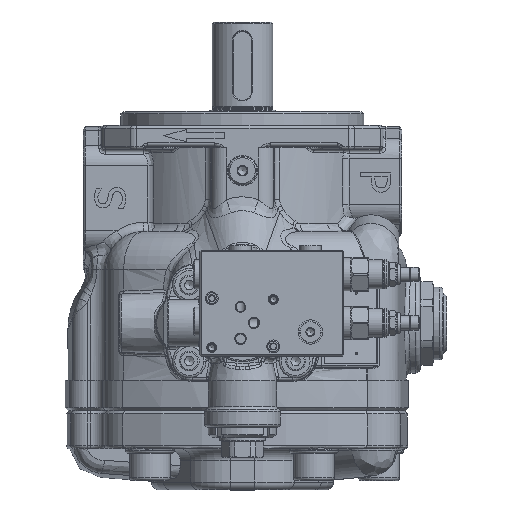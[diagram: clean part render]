
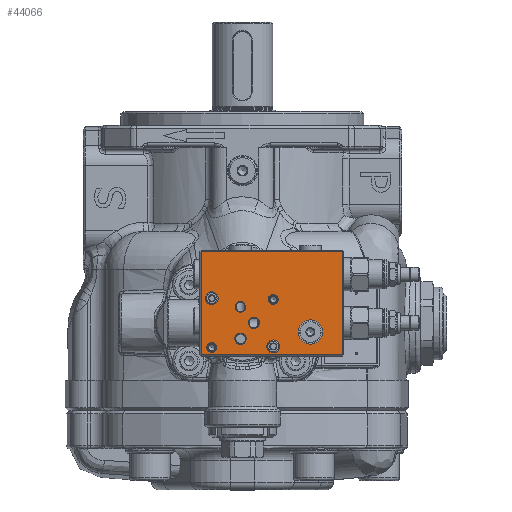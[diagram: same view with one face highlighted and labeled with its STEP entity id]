
A CAD part, top view. The second image highlights one B-rep face of the part: STEP entity #44066.
In plain terms, the highlighted planar face has unit normal (0, 0, 1).
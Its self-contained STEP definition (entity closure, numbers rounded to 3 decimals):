
#1290=FACE_BOUND('',#8272,.T.);
#1291=FACE_BOUND('',#8273,.T.);
#1292=FACE_BOUND('',#8274,.T.);
#1293=FACE_BOUND('',#8275,.T.);
#1294=FACE_BOUND('',#8276,.T.);
#1295=FACE_BOUND('',#8277,.T.);
#1296=FACE_BOUND('',#8278,.T.);
#1297=FACE_BOUND('',#8279,.T.);
#2116=PLANE('',#48177);
#3190=B_SPLINE_CURVE_WITH_KNOTS('',3,(#90989,#90990,#90991,#90992,#90993,
#90994,#90995,#90996,#90997,#90998,#90999,#91000,#91001,#91002,#91003,#91004,
#91005),.UNSPECIFIED.,.T.,.F.,(4,1,1,1,1,1,1,1,1,1,1,1,1,1,4),(-2.154,
-2.077,-2.,-1.923,-1.846,
-1.538,-1.231,-1.128,-0.923,
-0.615,-0.308,-0.231,-0.154,
-0.077,0.),.UNSPECIFIED.);
#5632=FACE_OUTER_BOUND('',#8271,.T.);
#8271=EDGE_LOOP('',(#37166,#37167,#37168,#37169));
#8272=EDGE_LOOP('',(#37170));
#8273=EDGE_LOOP('',(#37171));
#8274=EDGE_LOOP('',(#37172));
#8275=EDGE_LOOP('',(#37173));
#8276=EDGE_LOOP('',(#37174));
#8277=EDGE_LOOP('',(#37175,#37176));
#8278=EDGE_LOOP('',(#37177));
#8279=EDGE_LOOP('',(#37178));
#8646=CIRCLE('',#44410,4.25);
#10534=CIRCLE('',#47790,8.);
#10535=CIRCLE('',#47791,8.);
#10624=CIRCLE('',#48158,3.25);
#10629=CIRCLE('',#48165,3.75);
#10630=CIRCLE('',#48167,3.25);
#10633=CIRCLE('',#48174,3.75);
#10636=CIRCLE('',#48178,4.25);
#13278=LINE('',#90867,#15755);
#13283=LINE('',#90875,#15760);
#13288=LINE('',#90883,#15765);
#13291=LINE('',#90887,#15768);
#15755=VECTOR('',#58569,10.);
#15760=VECTOR('',#58578,10.);
#15765=VECTOR('',#58587,10.);
#15768=VECTOR('',#58592,10.);
#16080=VERTEX_POINT('',#60428);
#18988=VERTEX_POINT('',#89135);
#18989=VERTEX_POINT('',#89136);
#19461=VERTEX_POINT('',#90863);
#19462=VERTEX_POINT('',#90865);
#19463=VERTEX_POINT('',#90873);
#19464=VERTEX_POINT('',#90880);
#19466=VERTEX_POINT('',#90984);
#19467=VERTEX_POINT('',#91007);
#19472=VERTEX_POINT('',#91021);
#19473=VERTEX_POINT('',#91025);
#19478=VERTEX_POINT('',#91039);
#19481=VERTEX_POINT('',#91047);
#20054=EDGE_CURVE('',#16080,#16080,#8646,.T.);
#24746=EDGE_CURVE('',#18988,#18989,#10534,.T.);
#24747=EDGE_CURVE('',#18989,#18988,#10535,.T.);
#25459=EDGE_CURVE('',#19462,#19461,#13278,.T.);
#25464=EDGE_CURVE('',#19463,#19462,#13283,.T.);
#25469=EDGE_CURVE('',#19461,#19464,#13288,.T.);
#25472=EDGE_CURVE('',#19464,#19463,#13291,.T.);
#25476=EDGE_CURVE('',#19466,#19466,#3190,.T.);
#25477=EDGE_CURVE('',#19467,#19467,#10624,.T.);
#25484=EDGE_CURVE('',#19472,#19472,#10629,.T.);
#25486=EDGE_CURVE('',#19473,#19473,#10630,.T.);
#25493=EDGE_CURVE('',#19478,#19478,#10633,.T.);
#25497=EDGE_CURVE('',#19481,#19481,#10636,.T.);
#37166=ORIENTED_EDGE('',*,*,#25472,.F.);
#37167=ORIENTED_EDGE('',*,*,#25469,.F.);
#37168=ORIENTED_EDGE('',*,*,#25459,.F.);
#37169=ORIENTED_EDGE('',*,*,#25464,.F.);
#37170=ORIENTED_EDGE('',*,*,#25497,.T.);
#37171=ORIENTED_EDGE('',*,*,#20054,.T.);
#37172=ORIENTED_EDGE('',*,*,#25493,.F.);
#37173=ORIENTED_EDGE('',*,*,#25484,.F.);
#37174=ORIENTED_EDGE('',*,*,#25476,.F.);
#37175=ORIENTED_EDGE('',*,*,#24746,.T.);
#37176=ORIENTED_EDGE('',*,*,#24747,.T.);
#37177=ORIENTED_EDGE('',*,*,#25477,.F.);
#37178=ORIENTED_EDGE('',*,*,#25486,.F.);
#44066=ADVANCED_FACE('',(#5632,#1290,#1291,#1292,#1293,#1294,#1295,#1296,
#1297),#2116,.T.);
#44410=AXIS2_PLACEMENT_3D('',#60430,#48934,#48935);
#47790=AXIS2_PLACEMENT_3D('',#89137,#57264,#57265);
#47791=AXIS2_PLACEMENT_3D('',#89138,#57266,#57267);
#48158=AXIS2_PLACEMENT_3D('',#91008,#58614,#58615);
#48165=AXIS2_PLACEMENT_3D('',#91022,#58630,#58631);
#48167=AXIS2_PLACEMENT_3D('',#91026,#58635,#58636);
#48174=AXIS2_PLACEMENT_3D('',#91040,#58651,#58652);
#48177=AXIS2_PLACEMENT_3D('',#91046,#58658,#58659);
#48178=AXIS2_PLACEMENT_3D('',#91048,#58660,#58661);
#48934=DIRECTION('center_axis',(0.,0.,
-1.));
#48935=DIRECTION('ref_axis',(1.,0.,0.));
#57264=DIRECTION('center_axis',(0.,0.,
-1.));
#57265=DIRECTION('ref_axis',(-1.,0.,0.));
#57266=DIRECTION('center_axis',(0.,0.,
-1.));
#57267=DIRECTION('ref_axis',(-1.,0.,0.));
#58569=DIRECTION('',(0.,1.,0.));
#58578=DIRECTION('',(-1.,0.,0.));
#58587=DIRECTION('',(1.,0.,0.));
#58592=DIRECTION('',(0.,-1.,0.));
#58614=DIRECTION('center_axis',(0.,0.,
1.));
#58615=DIRECTION('ref_axis',(1.,0.,0.));
#58630=DIRECTION('center_axis',(0.,0.,
1.));
#58631=DIRECTION('ref_axis',(1.,0.,0.));
#58635=DIRECTION('center_axis',(0.,0.,
1.));
#58636=DIRECTION('ref_axis',(1.,0.,0.));
#58651=DIRECTION('center_axis',(0.,0.,
1.));
#58652=DIRECTION('ref_axis',(1.,0.,0.));
#58658=DIRECTION('center_axis',(0.,0.,
1.));
#58659=DIRECTION('ref_axis',(-1.,0.,0.));
#58660=DIRECTION('center_axis',(0.,0.,
-1.));
#58661=DIRECTION('ref_axis',(1.,0.,0.));
#60428=CARTESIAN_POINT('',(19.561,-54.812,227.499));
#60430=CARTESIAN_POINT('Origin',(23.811,-54.812,227.499));
#89135=CARTESIAN_POINT('',(40.311,-45.312,227.499));
#89136=CARTESIAN_POINT('',(56.311,-45.312,227.499));
#89137=CARTESIAN_POINT('Origin',(48.311,-45.312,227.499));
#89138=CARTESIAN_POINT('Origin',(48.311,-45.312,227.499));
#90863=CARTESIAN_POINT('',(-23.689,7.688,227.499));
#90865=CARTESIAN_POINT('',(-23.689,-60.312,227.499));
#90867=CARTESIAN_POINT('',(-23.689,-8.812,227.499));
#90873=CARTESIAN_POINT('',(69.311,-60.312,227.499));
#90875=CARTESIAN_POINT('',(-0.939,-60.312,227.499));
#90880=CARTESIAN_POINT('',(69.311,7.688,227.499));
#90883=CARTESIAN_POINT('',(46.561,7.688,227.499));
#90887=CARTESIAN_POINT('',(69.311,-43.812,227.499));
#90984=CARTESIAN_POINT('',(2.311,-25.306,227.499));
#90989=CARTESIAN_POINT('Ctrl Pts',(2.311,-25.306,227.499));
#90990=CARTESIAN_POINT('Ctrl Pts',(2.14,-25.306,227.499));
#90991=CARTESIAN_POINT('Ctrl Pts',(1.768,-25.324,227.499));
#90992=CARTESIAN_POINT('Ctrl Pts',(0.934,-25.556,227.499));
#90993=CARTESIAN_POINT('Ctrl Pts',(0.171,-26.049,
227.499));
#90994=CARTESIAN_POINT('Ctrl Pts',(-0.927,-27.207,
227.499));
#90995=CARTESIAN_POINT('Ctrl Pts',(-1.444,-29.673,
227.499));
#90996=CARTESIAN_POINT('Ctrl Pts',(0.124,-31.795,
227.499));
#90997=CARTESIAN_POINT('Ctrl Pts',(2.117,-32.436,227.499));
#90998=CARTESIAN_POINT('Ctrl Pts',(4.258,-32.102,227.499));
#90999=CARTESIAN_POINT('Ctrl Pts',(6.076,-29.665,227.499));
#91000=CARTESIAN_POINT('Ctrl Pts',(5.549,-27.21,227.499));
#91001=CARTESIAN_POINT('Ctrl Pts',(4.452,-26.05,227.499));
#91002=CARTESIAN_POINT('Ctrl Pts',(3.687,-25.557,227.499));
#91003=CARTESIAN_POINT('Ctrl Pts',(2.853,-25.325,227.499));
#91004=CARTESIAN_POINT('Ctrl Pts',(2.482,-25.306,227.499));
#91005=CARTESIAN_POINT('Ctrl Pts',(2.311,-25.306,227.499));
#91007=CARTESIAN_POINT('',(-19.939,-55.562,227.499));
#91008=CARTESIAN_POINT('Origin',(-16.689,-55.562,227.499));
#91021=CARTESIAN_POINT('',(7.361,-39.312,227.499));
#91022=CARTESIAN_POINT('Origin',(11.111,-39.312,227.499));
#91025=CARTESIAN_POINT('',(20.561,-23.812,227.499));
#91026=CARTESIAN_POINT('Origin',(23.811,-23.812,227.499));
#91039=CARTESIAN_POINT('',(-1.439,-49.712,227.499));
#91040=CARTESIAN_POINT('Origin',(2.311,-49.712,227.499));
#91046=CARTESIAN_POINT('Origin',(22.811,-26.312,227.499));
#91047=CARTESIAN_POINT('',(-20.939,-23.062,227.499));
#91048=CARTESIAN_POINT('Origin',(-16.689,-23.062,227.499));
